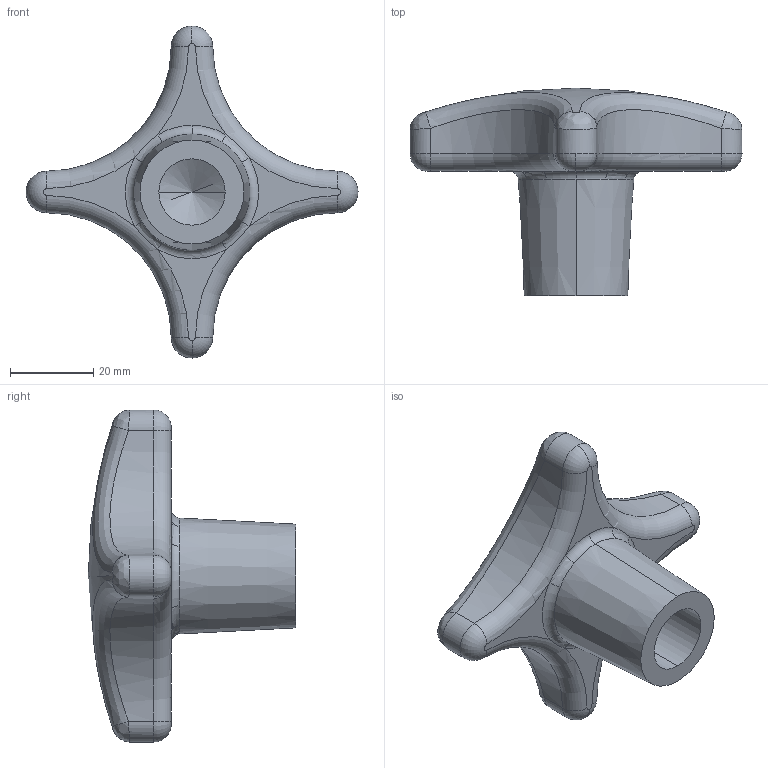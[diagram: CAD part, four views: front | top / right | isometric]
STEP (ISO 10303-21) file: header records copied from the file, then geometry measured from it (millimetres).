
FILE_DESCRIPTION (( 'STEP AP203' ), '1' );
FILE_NAME ('70040.W0680.step', '2019-01-26T19:33:02', ( '' ), ( '' ), 'SwSTEP 2.0', 'SolidWorks 2017', '' );
FILE_SCHEMA (( 'CONFIG_CONTROL_DESIGN' ));
Length unit declared in the file: millimetre
Products named in the file (1): 70040.W0680
Bounding box: 80 x 50 x 80 mm (x, y, z)
Volume: 48392.4 mm3; surface area: 11720.2 mm2
Topology: 1 solids, 1 shells, 49 faces, 116 edges, 68 vertices
Faces by surface type: torus 15, bspline 12, cylinder 11, plane 5, cone 4, sphere 2
Entity records: 2926 total; most frequent: CARTESIAN_POINT 1775, DIRECTION 235, ORIENTED_EDGE 228, EDGE_CURVE 114, AXIS2_PLACEMENT_3D 110, CIRCLE 72, VERTEX_POINT 68, EDGE_LOOP 50
